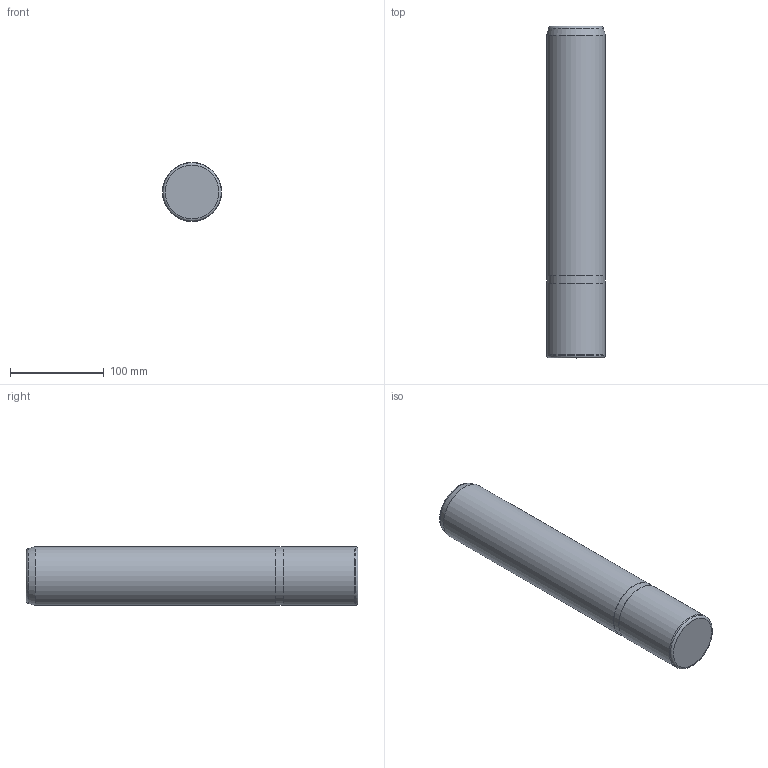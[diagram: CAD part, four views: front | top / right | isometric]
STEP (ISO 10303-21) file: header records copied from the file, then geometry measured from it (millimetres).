
FILE_DESCRIPTION( ( 'STEP AP203' ), '1' );
FILE_NAME( 'D:/Cuma/26 04 2010/D15/D15_63355.step', '2003-02-25T15:03:39', ( ' ' ), ( ' ' ), 'XStep 1.0', ' ', ' ' );
FILE_SCHEMA( ( 'CONFIG_CONTROL_DESIGN' ) );
Length unit declared in the file: metre
Products named in the file (1): 1
Bounding box: 63 x 355 x 63 mm (x, y, z)
Volume: 1102981.6 mm3; surface area: 75645.5 mm2
Topology: 1 solids, 1 shells, 11 faces, 17 edges, 10 vertices
Faces by surface type: plane 4, cylinder 3, torus 2, cone 2
Full cylindrical faces by diameter (mm): 62.5 x1, 63 x2
Entity records: 259 total; most frequent: DIRECTION 44, CARTESIAN_POINT 32, AXIS2_PLACEMENT_3D 22, EDGE_LOOP 20, ORIENTED_EDGE 20, FACE_OUTER_BOUND 16, ADVANCED_FACE 11, EDGE_CURVE 10
